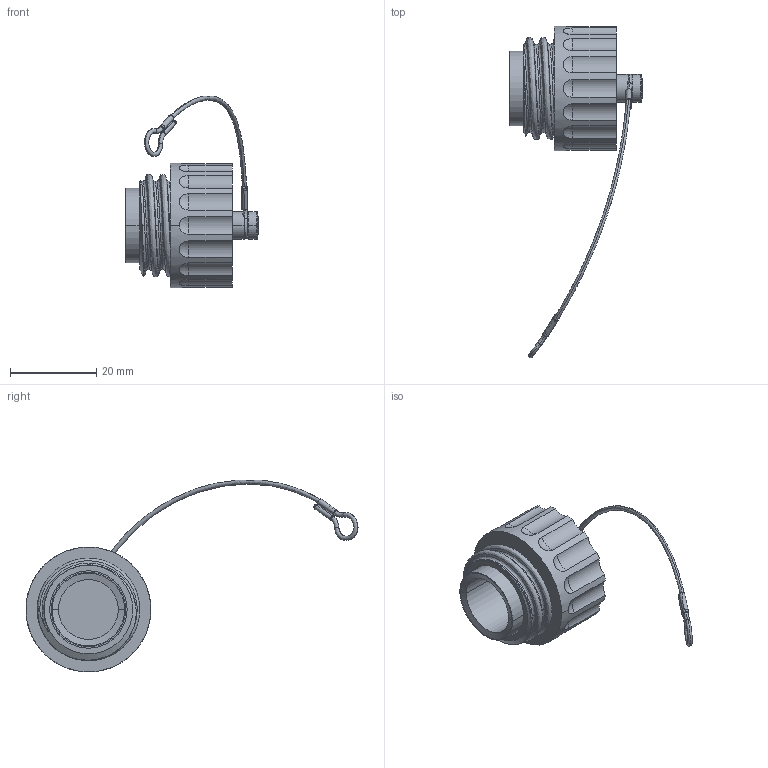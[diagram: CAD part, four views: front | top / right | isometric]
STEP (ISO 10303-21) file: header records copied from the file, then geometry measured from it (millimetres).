
FILE_DESCRIPTION((''),'2;1');
FILE_NAME('PRT0001','2019-03-15T',('Administrator'),(''),'CREO PARAMETRIC BY PTC INC, 2016130','CREO PARAMETRIC BY PTC INC, 2016130','');
FILE_SCHEMA(('CONFIG_CONTROL_DESIGN'));
Length unit declared in the file: inch
Products named in the file (1): PRT0001
Bounding box: 30.81 x 77.13 x 44.57 mm (x, y, z)
Volume: 3910.4 mm3; surface area: 8680.5 mm2
Topology: 1 solids, 4 shells, 199 faces, 613 edges, 423 vertices
Faces by surface type: cylinder 80, plane 50, bspline 35, sphere 18, torus 8, cone 8
Entity records: 11275 total; most frequent: CARTESIAN_POINT 5967, ORIENTED_EDGE 1206, DIRECTION 993, EDGE_CURVE 611, VERTEX_POINT 423, AXIS2_PLACEMENT_3D 410, CIRCLE 245, EDGE_LOOP 218
